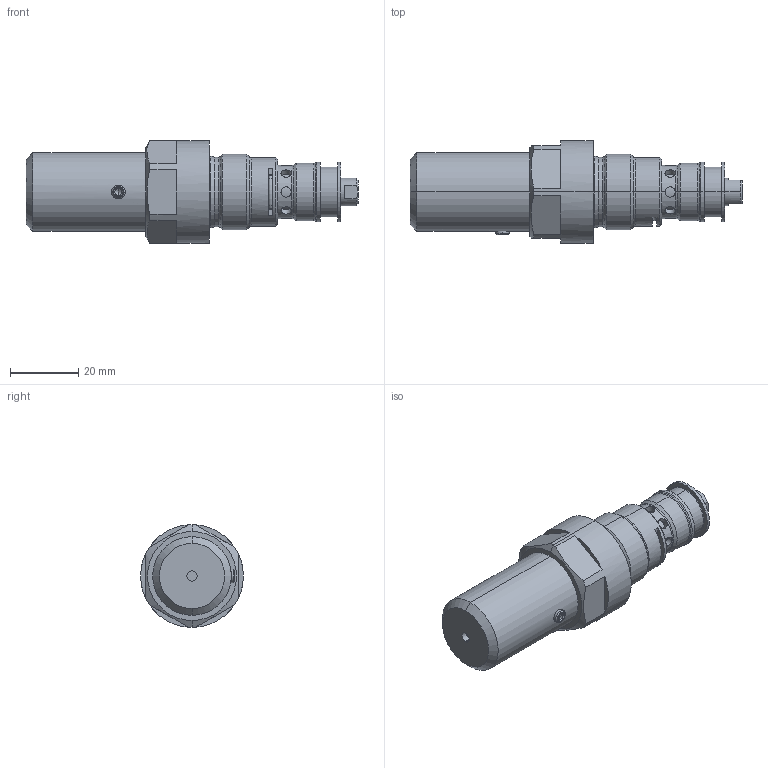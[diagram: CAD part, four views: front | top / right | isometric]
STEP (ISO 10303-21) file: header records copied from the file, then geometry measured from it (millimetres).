
FILE_DESCRIPTION (( 'STEP AP214' ), '1' );
FILE_NAME ('BAAPM22.STEP', '2021-08-18T08:57:26', ( '' ), ( '' ), 'SwSTEP 2.0', 'SolidWorks 2020', '' );
FILE_SCHEMA (( 'AUTOMOTIVE_DESIGN' ));
Length unit declared in the file: millimetre
Products named in the file (1): BAAPM22
Bounding box: 97 x 30 x 30 mm (x, y, z)
Volume: 37069 mm3; surface area: 8582 mm2
Topology: 1 solids, 1 shells, 159 faces, 357 edges, 214 vertices
Faces by surface type: cylinder 57, plane 52, cone 29, torus 21
Entity records: 7085 total; most frequent: CARTESIAN_POINT 1801, DIRECTION 754, ORIENTED_EDGE 710, EDGE_CURVE 355, AXIS2_PLACEMENT_3D 307, VERTEX_POINT 214, EDGE_LOOP 175, UNCERTAINTY_MEASURE_WITH_UNIT 162
